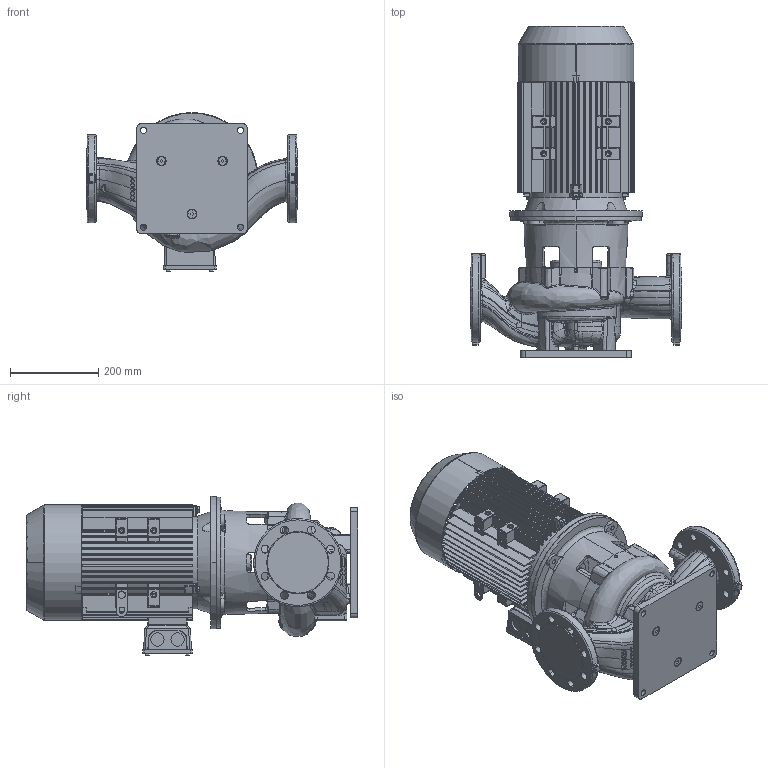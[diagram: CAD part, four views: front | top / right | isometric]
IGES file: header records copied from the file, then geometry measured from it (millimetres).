
Start section:  PTC IGES file: esl80-180_a12_motor_4_sw0001.igs
Global section: file name: esl80-180_a12_motor_4_sw0001.igs; native system: Creo Parametric by Parametric Technology Corporation; preprocessor: 2017170; author: brhe; organization: Unknown; date: 20190830.160359; units: millimetre
Bounding box: 480 x 752 x 360.5 mm (x, y, z)
Volume: 27092895 mm3; surface area: 2140069 mm2
Topology: 1 solids, 1 shells, 3739 faces, 10272 edges, 6616 vertices
Faces by surface type: bspline 2387, revolution 887, extrusion 465
